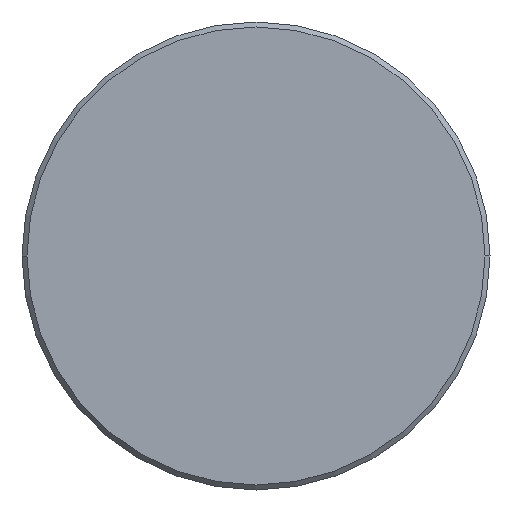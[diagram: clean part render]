
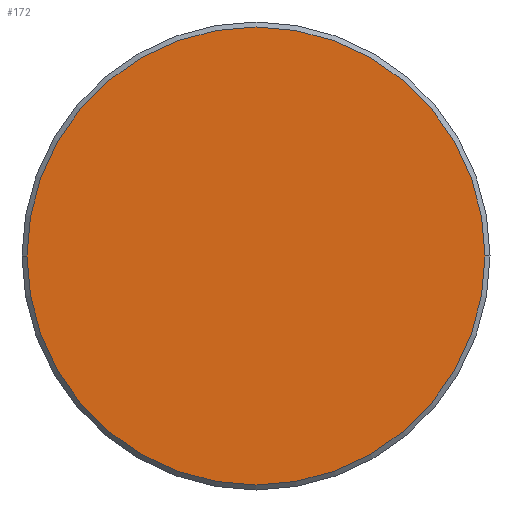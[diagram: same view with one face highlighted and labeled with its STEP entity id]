
A CAD part, left-side view. The second image highlights one B-rep face of the part: STEP entity #172.
In plain terms, the highlighted planar face has unit normal (-1, 0, 0).
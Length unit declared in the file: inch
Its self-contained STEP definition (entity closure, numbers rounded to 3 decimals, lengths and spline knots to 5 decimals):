
#19 = CARTESIAN_POINT ( 'NONE',  ( 0., 0.1835, 0. ) ) ;
#46 = CARTESIAN_POINT ( 'NONE',  ( 0., -0.1835, 0. ) ) ;
#53 = PLANE ( 'NONE',  #213 ) ;
#60 = CIRCLE ( 'NONE', #307, 0.1835 ) ;
#64 = EDGE_CURVE ( 'NONE', #181, #374, #60, .T. ) ;
#107 = DIRECTION ( 'NONE',  ( 0., -1., 0. ) ) ;
#133 = EDGE_CURVE ( 'NONE', #374, #181, #192, .T. ) ;
#138 = AXIS2_PLACEMENT_3D ( 'NONE', #180, #262, #314 ) ;
#172 = ADVANCED_FACE ( 'NONE', ( #359 ), #53, .T. ) ;
#180 = CARTESIAN_POINT ( 'NONE',  ( 0., 0., 0. ) ) ;
#181 = VERTEX_POINT ( 'NONE', #19 ) ;
#192 = CIRCLE ( 'NONE', #138, 0.1835 ) ;
#193 = ORIENTED_EDGE ( 'NONE', *, *, #133, .T. ) ;
#213 = AXIS2_PLACEMENT_3D ( 'NONE', #231, #292, #315 ) ;
#231 = CARTESIAN_POINT ( 'NONE',  ( 0., 0., 0. ) ) ;
#253 = DIRECTION ( 'NONE',  ( -1., 0., 0. ) ) ;
#262 = DIRECTION ( 'NONE',  ( -1., 0., 0. ) ) ;
#292 = DIRECTION ( 'NONE',  ( -1., 0., 0. ) ) ;
#307 = AXIS2_PLACEMENT_3D ( 'NONE', #330, #253, #107 ) ;
#311 = EDGE_LOOP ( 'NONE', ( #320, #193 ) ) ;
#314 = DIRECTION ( 'NONE',  ( 0., -1., 0. ) ) ;
#315 = DIRECTION ( 'NONE',  ( 0., -1., 0. ) ) ;
#320 = ORIENTED_EDGE ( 'NONE', *, *, #64, .T. ) ;
#330 = CARTESIAN_POINT ( 'NONE',  ( 0., 0., 0. ) ) ;
#359 = FACE_OUTER_BOUND ( 'NONE', #311, .T. ) ;
#374 = VERTEX_POINT ( 'NONE', #46 ) ;
